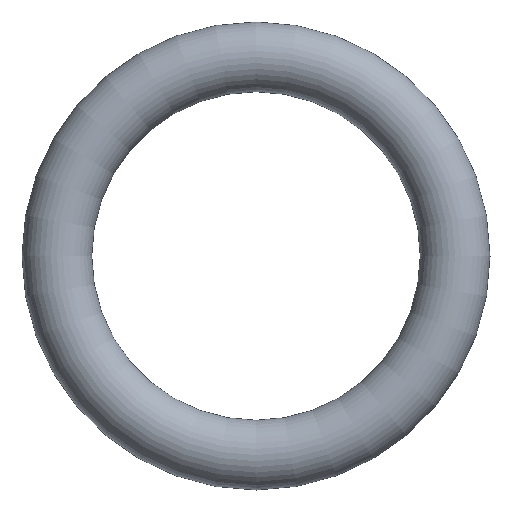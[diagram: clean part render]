
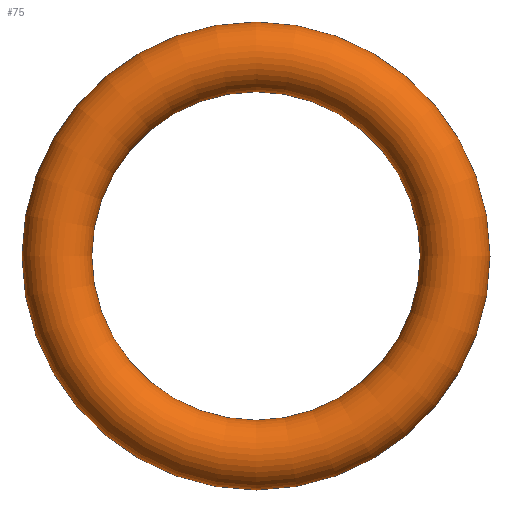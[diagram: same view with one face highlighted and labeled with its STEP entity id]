
A CAD part, front view. The second image highlights one B-rep face of the part: STEP entity #75.
In plain terms, the highlighted toroidal (fillet/blend) face has major radius 6.85 mm and minor radius 1.2 mm.
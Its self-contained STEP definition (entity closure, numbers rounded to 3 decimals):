
#75 = ADVANCED_FACE( '', ( #77 ), #78, .T. );
#77 = FACE_BOUND( '', #79, .T. );
#78 = TOROIDAL_SURFACE( '', #80, 6.85, 1.2 );
#79 = VERTEX_LOOP( '', #81 );
#80 = AXIS2_PLACEMENT_3D( '', #82, #83, #84 );
#81 = VERTEX_POINT( '', #85 );
#82 = CARTESIAN_POINT( '', ( 0., 0., 0. ) );
#83 = DIRECTION( '', ( 0., -1., 0. ) );
#84 = DIRECTION( '', ( 0., 0., -1. ) );
#85 = CARTESIAN_POINT( '', ( 0., 0., -8.05 ) );
